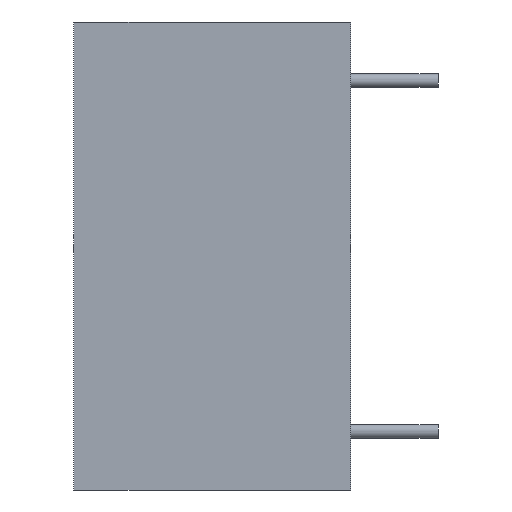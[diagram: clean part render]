
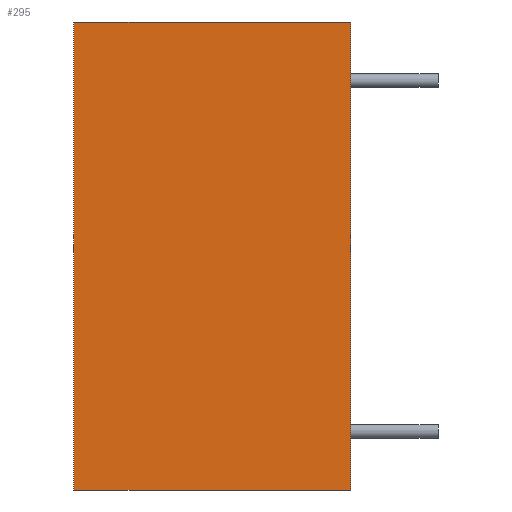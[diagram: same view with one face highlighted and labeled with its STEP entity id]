
A CAD part, left-side view. The second image highlights one B-rep face of the part: STEP entity #295.
In plain terms, the highlighted planar face has unit normal (-1, 0, 0).
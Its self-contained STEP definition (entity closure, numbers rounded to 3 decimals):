
#16 = DIRECTION ( 'NONE',  ( 0., -1., 0. ) ) ;
#23 = VERTEX_POINT ( 'NONE', #85 ) ;
#37 = VERTEX_POINT ( 'NONE', #634 ) ;
#85 = CARTESIAN_POINT ( 'NONE',  ( -15.9, 0., -10.15 ) ) ;
#87 = EDGE_CURVE ( 'NONE', #756, #37, #443, .T. ) ;
#92 = CARTESIAN_POINT ( 'NONE',  ( -15.9, 12., -10.15 ) ) ;
#97 = DIRECTION ( 'NONE',  ( 1., 0., 0. ) ) ;
#107 = ORIENTED_EDGE ( 'NONE', *, *, #524, .F. ) ;
#109 = VECTOR ( 'NONE', #341, 1000. ) ;
#152 = CARTESIAN_POINT ( 'NONE',  ( -15.9, 12., -10.15 ) ) ;
#197 = ORIENTED_EDGE ( 'NONE', *, *, #87, .F. ) ;
#265 = LINE ( 'NONE', #651, #109 ) ;
#286 = EDGE_CURVE ( 'NONE', #738, #23, #650, .T. ) ;
#295 = ADVANCED_FACE ( 'NONE', ( #337 ), #583, .F. ) ;
#337 = FACE_OUTER_BOUND ( 'NONE', #576, .T. ) ;
#339 = ORIENTED_EDGE ( 'NONE', *, *, #286, .T. ) ;
#340 = DIRECTION ( 'NONE',  ( 0., 0., -1. ) ) ;
#341 = DIRECTION ( 'NONE',  ( 0., 0., 1. ) ) ;
#374 = AXIS2_PLACEMENT_3D ( 'NONE', #710, #97, #340 ) ;
#392 = LINE ( 'NONE', #152, #427 ) ;
#426 = ORIENTED_EDGE ( 'NONE', *, *, #496, .T. ) ;
#427 = VECTOR ( 'NONE', #517, 1000. ) ;
#443 = LINE ( 'NONE', #696, #694 ) ;
#462 = DIRECTION ( 'NONE',  ( 0., -1., 0. ) ) ;
#488 = CARTESIAN_POINT ( 'NONE',  ( -15.9, 12., -10.15 ) ) ;
#496 = EDGE_CURVE ( 'NONE', #23, #37, #265, .T. ) ;
#517 = DIRECTION ( 'NONE',  ( 0., 0., 1. ) ) ;
#524 = EDGE_CURVE ( 'NONE', #738, #756, #392, .T. ) ;
#576 = EDGE_LOOP ( 'NONE', ( #426, #197, #107, #339 ) ) ;
#583 = PLANE ( 'NONE',  #374 ) ;
#634 = CARTESIAN_POINT ( 'NONE',  ( -15.9, 0., 10.15 ) ) ;
#650 = LINE ( 'NONE', #92, #739 ) ;
#651 = CARTESIAN_POINT ( 'NONE',  ( -15.9, 0., -10.15 ) ) ;
#694 = VECTOR ( 'NONE', #16, 1000. ) ;
#696 = CARTESIAN_POINT ( 'NONE',  ( -15.9, 12., 10.15 ) ) ;
#710 = CARTESIAN_POINT ( 'NONE',  ( -15.9, 12., -10.15 ) ) ;
#732 = CARTESIAN_POINT ( 'NONE',  ( -15.9, 12., 10.15 ) ) ;
#738 = VERTEX_POINT ( 'NONE', #488 ) ;
#739 = VECTOR ( 'NONE', #462, 1000. ) ;
#756 = VERTEX_POINT ( 'NONE', #732 ) ;
